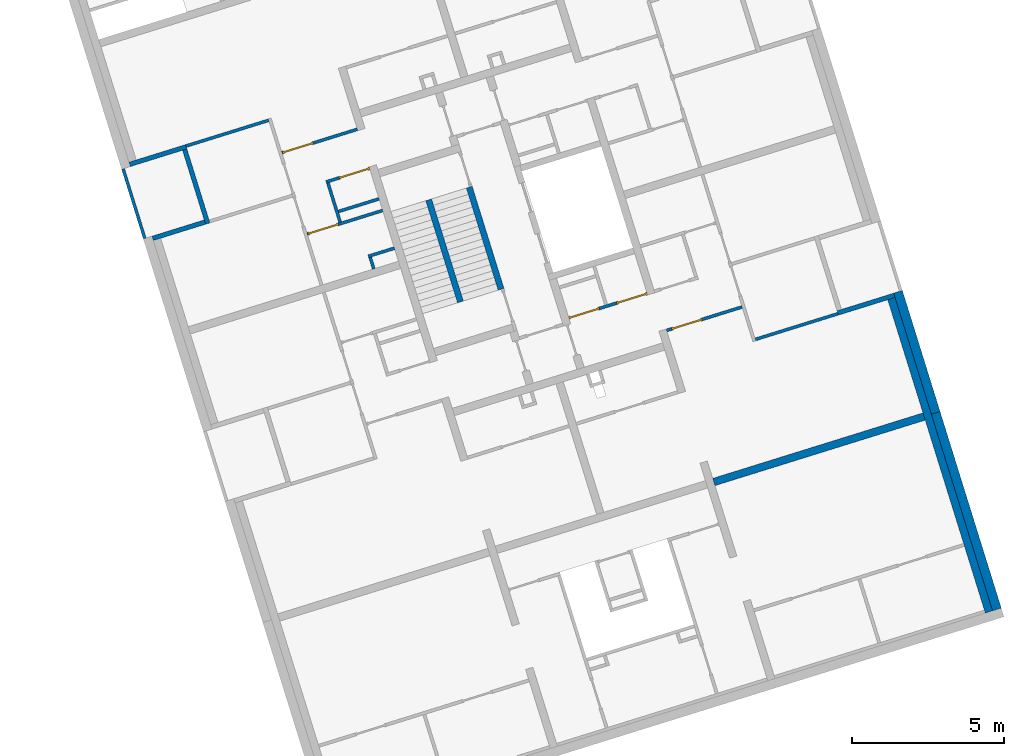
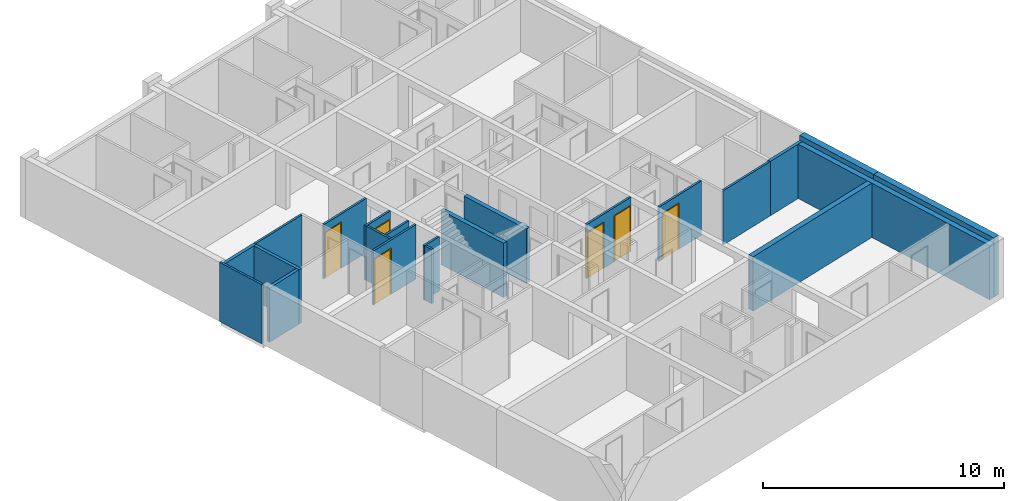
# One storey, part 4 of 12: 22 walls, 6 doors, 6 openings.
"""IFC4 building model written with IfcOpenShell, lengths in metres."""

from ifc_helpers import new_model, entity, si_unit, converted_unit, direction, frame, origin, place, context, subcontext, project, spatial, indexed_curve, outline, extrude, polygons, source, transform, mapped, material, constituent, constituent_set, type_object, type_shapes, element, fill, save


model = new_model("IFC4")

# Units and contexts
model_context = context("Model", 3, precision=1e-05, world=origin(), true_north=direction((6.12323399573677e-17, 1.0)))
body_context = subcontext(model_context, "Body", "Model", "MODEL_VIEW")
ifc_project = project(units=[si_unit("LENGTHUNIT", "METRE"), si_unit("AREAUNIT", "SQUARE_METRE"), converted_unit("PLANEANGLEUNIT", "DEGREE", entity("IfcPlaneAngleMeasure", 0.0174532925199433), si_unit("PLANEANGLEUNIT", "RADIAN"), dimensions=[0, 0, 0, 0, 0, 0, 0]), si_unit("VOLUMEUNIT", "CUBIC_METRE")], contexts=[model_context])

# Site, building, storey
site_placement = place(None, frame((13.1347999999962, 11.9886000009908, 0.0), z_axis=(0.0, 0.0, 1.0), x_axis=(0.954770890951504, 0.297342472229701, 0.0)))
site = spatial("IfcSite", under=ifc_project, at=site_placement, Name="Schiehaven", CompositionType="ELEMENT")
building_placement = place(site_placement, origin())
building = spatial("IfcBuilding", under=site, at=building_placement, Name="VORM huis", CompositionType="ELEMENT")
storey_placement = place(building_placement, frame((0.0, 0.0, 3.9)))
storey = spatial("IfcBuildingStorey", under=building, at=storey_placement, Name="01 eerste verdieping", CompositionType="ELEMENT", Elevation=3.9)

# Walls
ifc_material_1 = material(Name="beton_gewapend_ihw", Category="Miscellaneous")
wall_type_1 = type_object("IfcWallType", Name="Basic Wall:28_WA_skelet_wand 250mm_gen", PredefinedType="STANDARD")
wall_1_placement = place(storey_placement, frame((80.0, 0.375000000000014, 0.0), z_axis=(0.0, 0.0, 1.0), x_axis=(0.0, 1.0, 0.0)))
element("IfcWall", 1, at=wall_1_placement, inside=storey, type_object=wall_type_1, material=ifc_material_1, Name="Constructieve wand", ObjectType="Wand", PredefinedType="NOTDEFINED", context=body_context, shape_type="SweptSolid", body=[
    extrude(outline(indexed_curve([(10.8, 0.125000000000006), (-2.80743329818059e-16, 0.125000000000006), (2.80743329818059e-16, -0.125000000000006), (10.8, -0.125000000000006), (10.8, 0.125000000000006)], self_intersect=False)), origin(), (0.0, 0.0, 1.0), 2.75),
])
ifc_material_2 = material(Name="ntb_ntb_ntb", Category="Miscellaneous")
wall_type_2 = type_object("IfcWallType", Name="Basic Wall: 300mm_gen", PredefinedType="STANDARD")
wall_2_placement = place(storey_placement, frame((80.2750000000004, 0.375000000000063, 0.0), z_axis=(0.0, 0.0, 1.0), x_axis=(0.0, 1.0, 0.0)))
element("IfcWall", 2, at=wall_2_placement, inside=storey, type_object=wall_type_2, material=ifc_material_2, Name="Gevelwand", ObjectType="Wand", PredefinedType="NOTDEFINED", context=body_context, shape_type="SweptSolid", body=[
    extrude(outline(indexed_curve([(6.77500000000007, 0.150000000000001), (-1.66143873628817e-16, 0.150000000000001), (1.66143873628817e-16, -0.150000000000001), (6.77500000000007, -0.15), (6.77500000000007, 0.150000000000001)], self_intersect=False)), origin(), (0.0, 0.0, 1.0), 3.0),
])
wall_3_placement = place(storey_placement, frame((80.2750000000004, 7.15000000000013, 0.0), z_axis=(0.0, 0.0, 1.0), x_axis=(0.0, 1.0, 0.0)))
element("IfcWall", 3, at=wall_3_placement, inside=storey, type_object=wall_type_2, material=ifc_material_2, Name="Gevelwand", ObjectType="Wand", PredefinedType="NOTDEFINED", context=body_context, shape_type="SweptSolid", body=[
    extrude(outline(indexed_curve([(4.17499999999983, 0.150000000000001), (6.22486493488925e-16, 0.150000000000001), (4.60380635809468e-16, -0.150000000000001), (4.17499999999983, -0.150000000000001), (4.17499999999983, 0.150000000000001)], self_intersect=False)), origin(), (0.0, 0.0, 1.0), 3.0),
])
ifc_material_3 = material(Name="beton_gewapend_prefab-element", Category="Miscellaneous")
wall_type_3 = type_object("IfcWallType", Name="Basic Wall:28_WA_skelet_wand 200mm_gen", PredefinedType="STANDARD")
wall_4_placement = place(storey_placement, frame((67.8250000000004, 15.29, 0.0), z_axis=(0.0, 0.0, 1.0), x_axis=(0.0, 1.0, 0.0)))
element("IfcWall", 4, at=wall_4_placement, inside=storey, type_object=wall_type_3, material=ifc_material_3, Name="Constructieve wand", ObjectType="Wand", PredefinedType="NOTDEFINED", context=body_context, shape_type="SweptSolid", body=[
    extrude(outline(indexed_curve([(3.52, 0.100000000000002), (5.14948433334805e-16, 0.100000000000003), (-5.14948433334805e-16, -0.100000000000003), (3.52, -0.100000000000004), (3.52, 0.100000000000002)], self_intersect=False)), origin(), (0.0, 0.0, 1.0), 2.75),
])
wall_5_placement = place(storey_placement, frame((66.4250000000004, 15.29, 0.0), z_axis=(0.0, 0.0, 1.0), x_axis=(0.0, 1.0, 0.0)))
element("IfcWall", 5, at=wall_5_placement, inside=storey, type_object=wall_type_3, material=ifc_material_3, Name="Constructieve wand", ObjectType="Wand", PredefinedType="NOTDEFINED", context=body_context, shape_type="SweptSolid", body=[
    extrude(outline(indexed_curve([(3.52, 0.100000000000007), (6.38001516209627e-16, 0.100000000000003), (-6.38001516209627e-16, -0.100000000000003), (3.52, -0.0999999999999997), (3.52, 0.100000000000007)], self_intersect=False)), origin(), (0.0, 0.0, 1.0), 2.75),
])
wall_type_4 = type_object("IfcWallType", Name="Basic Wall:22_WA_afbouw_binnenwand 250mm_gen", PredefinedType="STANDARD")
wall_6_placement = place(storey_placement, frame((79.8750000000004, 7.15000000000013, 0.0), z_axis=(0.0, 0.0, 1.0), x_axis=(-1.0, 0.0, 0.0)))
element("IfcWall", 6, at=wall_6_placement, inside=storey, type_object=wall_type_4, material=ifc_material_2, Name="Binnenwand", ObjectType="Wand", PredefinedType="NOTDEFINED", context=body_context, shape_type="SweptSolid", body=[
    extrude(outline(indexed_curve([(7.24999999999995, 0.125), (2.64740926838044e-16, 0.125), (-2.64740926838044e-16, -0.125), (7.24999999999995, -0.125), (7.24999999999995, 0.125)], self_intersect=False)), origin(), (0.0, 0.0, 1.0), 2.75),
])
wall_type_5 = type_object("IfcWallType", Name="Basic Wall:22_WA_afbouw_binnenwand 100mm_gen", PredefinedType="STANDARD")
wall_7_placement = place(storey_placement, frame((64.8771642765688, 17.6249999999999, 0.0), z_axis=(0.0, 0.0, 1.0), x_axis=(-1.0, 0.0, 0.0)))
element("IfcWall", 7, at=wall_7_placement, inside=storey, type_object=wall_type_5, material=ifc_material_2, Name="Binnenwand", ObjectType="Wand", PredefinedType="NOTDEFINED", context=body_context, shape_type="SweptSolid", body=[
    extrude(outline(indexed_curve([(0.902164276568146, 0.0499999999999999), (-2.21764679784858e-17, 0.0499999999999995), (2.21764679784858e-17, -0.0499999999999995), (0.902164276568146, -0.0499999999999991), (0.902164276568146, 0.0499999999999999)], self_intersect=False)), origin(), (0.0, 0.0, 1.0), 2.75),
])
wall_8_placement = place(storey_placement, frame((64.0250000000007, 17.5749999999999, 0.0), z_axis=(0.0, 0.0, 1.0), x_axis=(0.0, -1.0, 0.0)))
element("IfcWall", 8, at=wall_8_placement, inside=storey, type_object=wall_type_5, material=ifc_material_2, Name="Binnenwand", ObjectType="Wand", PredefinedType="NOTDEFINED", context=body_context, shape_type="SweptSolid", body=[
    extrude(outline(indexed_curve([(0.399999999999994, 0.0499999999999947), (3.21404622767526e-16, 0.0499999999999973), (-3.21404622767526e-16, -0.0499999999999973), (0.399999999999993, -0.0499999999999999), (0.399999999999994, 0.0499999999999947)], self_intersect=False)), origin(), (0.0, 0.0, 1.0), 2.75),
])
wall_9_placement = place(storey_placement, frame((75.3249999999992, 11.2249999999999, 0.0)))
element("IfcWall", 9, at=wall_9_placement, inside=storey, type_object=wall_type_5, material=ifc_material_2, Name="Binnenwand", ObjectType="Wand", PredefinedType="NOTDEFINED", context=body_context, shape_type="SweptSolid", body=[
    extrude(outline(indexed_curve([(2.8500000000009, 0.049999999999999), (5.02600343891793e-16, 0.0499999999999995), (-5.02600343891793e-16, -0.0499999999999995), (2.8500000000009, -0.05), (2.8500000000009, 0.049999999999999)], self_intersect=False)), origin(), (0.0, 0.0, 1.0), 2.75),
])

# Wall, openings, doors
wall_10_placement = place(storey_placement, frame((69.6749999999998, 13.7249999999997, 0.0)))
wall_10 = element("IfcWall", 10, at=wall_10_placement, inside=storey, type_object=wall_type_5, material=ifc_material_2, Name="Binnenwand", ObjectType="Wand", PredefinedType="NOTDEFINED", context=body_context, shape_type="Tessellation", body=[
    polygons([(2.70000000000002, -0.0500000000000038, 2.75), (1.0939532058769e-14, -0.0499999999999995, 2.75), (1.0939532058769e-14, -0.0499999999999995, 2.34999999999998), (1.05000000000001, -0.050000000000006, 2.34999999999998), (1.05000000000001, -0.0500000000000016, -5.41433564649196e-16), (1.65000000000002, -0.0500000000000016, -5.41433564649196e-16), (1.65000000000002, -0.0500000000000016, 2.34999999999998), (2.70000000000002, -0.0500000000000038, 2.34999999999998), (1.19064106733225e-14, 0.0499999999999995, 2.75), (1.24999999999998, 0.0499999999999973, 2.75), (1.34999999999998, 0.0499999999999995, 2.75), (2.70000000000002, 0.0499999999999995, 2.75), (2.70000000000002, 0.0499999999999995, 2.34999999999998), (1.65000000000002, 0.0499999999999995, 2.34999999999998), (1.65000000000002, 0.0499999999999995, -5.41433564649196e-16), (1.34999999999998, 0.0499999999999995, 0.0), (1.24999999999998, 0.0499999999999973, 0.0), (1.05, 0.0499999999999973, -5.41433564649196e-16), (1.05, 0.0499999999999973, 2.34999999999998), (1.19064106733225e-14, 0.0499999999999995, 2.34999999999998)], [[[1, 2, 3, 4, 5, 6, 7, 8]], [[9, 10, 11, 12, 13, 14, 15, 16, 17, 18, 19, 20]], [[5, 18, 17, 16, 15, 6]], [[12, 1, 8, 13]], [[2, 1, 12, 11, 10, 9]], [[2, 9, 20, 3]], [[4, 19, 18, 5]], [[19, 4, 3, 20]], [[14, 7, 6, 15]], [[7, 14, 13, 8]]], closed=True),
])
opening_1_placement = place(wall_10_placement, frame((1.05, 0.0500000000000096, 0.0)))
opening_1 = element("IfcOpeningElement", 11, at=opening_1_placement, cuts=wall_10, Name="Binnendeur", PredefinedType="OPENING", context=body_context, shape_type="SweptSolid", body=[
    extrude(outline(indexed_curve([(2.34999999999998, 1.43962647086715e-29), (2.34999999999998, 1.05), (0.0, 1.05), (0.0, 1.43962647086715e-29), (2.34999999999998, 1.43962647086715e-29)], self_intersect=False)), frame((0.0, 0.0, 0.0), z_axis=(0.0, -1.0, 0.0), x_axis=(0.0, 0.0, 1.0)), (0.0, 0.0, 1.0), 0.1),
])
opening_2_placement = place(wall_10_placement, frame((2.70000000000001, 0.0500000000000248, 0.0)))
opening_2 = element("IfcOpeningElement", 12, at=opening_2_placement, cuts=wall_10, Name="Binnendeur", PredefinedType="OPENING", context=body_context, shape_type="SweptSolid", body=[
    extrude(outline(indexed_curve([(2.34999999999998, 1.43962647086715e-29), (2.34999999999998, 1.05), (0.0, 1.05), (0.0, 1.43962647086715e-29), (2.34999999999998, 1.43962647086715e-29)], self_intersect=False)), frame((0.0, 0.0, 0.0), z_axis=(0.0, -1.0, 0.0), x_axis=(0.0, 0.0, 1.0)), (0.0, 0.0, 1.0), 0.1),
])
ifc_material_4 = material(Name="PD_a_binnenwandopeningen", Category="Miscellaneous")
ifc_constituent_1 = constituent(ifc_material_4, Name="PD_a_binnenwandopeningen", Category="Miscellaneous")
ifc_material_5 = material(Name="metaal_aluminium_ntb", Category="Miscellaneous")
ifc_constituent_2 = constituent(ifc_material_5, Name="metaal_aluminium_ntb", Category="Miscellaneous")
ifc_constituent_set_1 = constituent_set(constituents=[ifc_constituent_1, ifc_constituent_2])
ifc_constituent_3 = constituent(ifc_material_4, Name="PD_a_binnenwandopeningen", Category="Miscellaneous")
ifc_constituent_4 = constituent(ifc_material_5, Name="Panel", Category="Miscellaneous")
ifc_constituent_set_2 = constituent_set(constituents=[ifc_constituent_3, ifc_constituent_4])
door_type_1 = type_object("IfcDoorType", Name="32_DO_binnendeur enkel:binnendeur", OperationType="REVOLVING", PredefinedType="DOOR", material=ifc_constituent_set_2)
shared_shape_1 = source(origin(), body_context, "Body", "SweptSolid", [
    extrude(outline(indexed_curve([(0.475, -1.16249999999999), (0.525, -1.16249999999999), (0.525, 1.18749999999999), (-0.525, 1.18749999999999), (-0.525, -1.16249999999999), (-0.475, -1.16249999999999), (-0.475, 1.13749999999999), (0.475, 1.13749999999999), (0.475, -1.16249999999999)], self_intersect=False)), frame((0.525000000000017, 0.100000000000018, 1.16249999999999), z_axis=(0.0, -1.0, 0.0), x_axis=(1.0, 0.0, 0.0)), (0.0, 0.0, 1.0), 0.1),
    extrude(outline(indexed_curve([(-0.475, -0.025), (0.475, -0.025), (0.475, 0.025), (-0.475, 0.025), (-0.475, -0.025)], self_intersect=False)), frame((0.525000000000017, 0.0499999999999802, 0.0)), (0.0, 0.0, 1.0), 2.29999999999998),
])
type_shapes(door_type_1, [shared_shape_1])
door_1_placement = place(opening_1_placement, frame((0.0, 0.0, 0.0), z_axis=(0.0, 0.0, 1.0), x_axis=(-1.0, 0.0, 0.0)))
door_1 = element("IfcDoor", 13, at=door_1_placement, inside=storey, type_object=door_type_1, material=ifc_constituent_set_1, Name="Binnendeur", ObjectType="Deur", OperationType="REVOLVING", OverallHeight=2.34999999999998, OverallWidth=1.05, PredefinedType="DOOR", context=body_context, shape_type="MappedRepresentation", body=[
    mapped(shared_shape_1, transform((0.0, 0.0, 0.0), scale=1.0)),
])
fill(opening_1, door_1)
ifc_constituent_5 = constituent(ifc_material_4, Name="PD_a_binnenwandopeningen", Category="Miscellaneous")
ifc_constituent_6 = constituent(ifc_material_5, Name="metaal_aluminium_ntb", Category="Miscellaneous")
ifc_constituent_set_3 = constituent_set(constituents=[ifc_constituent_5, ifc_constituent_6])
door_2_placement = place(opening_2_placement, frame((0.0, 0.0, 0.0), z_axis=(0.0, 0.0, 1.0), x_axis=(-1.0, 0.0, 0.0)))
door_2 = element("IfcDoor", 14, at=door_2_placement, inside=storey, type_object=door_type_1, material=ifc_constituent_set_3, Name="Binnendeur", ObjectType="Deur", OperationType="REVOLVING", OverallHeight=2.34999999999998, OverallWidth=1.05, PredefinedType="DOOR", context=body_context, shape_type="MappedRepresentation", body=[
    mapped(shared_shape_1, transform((0.0, 0.0, 0.0), scale=1.0)),
])
fill(opening_2, door_2)

# Wall, opening, door
wall_11_placement = place(storey_placement, frame((75.2249999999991, 12.3749999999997, 0.0), z_axis=(0.0, 0.0, 1.0), x_axis=(-1.0, 0.0, 0.0)))
wall_11 = element("IfcWall", 15, at=wall_11_placement, inside=storey, type_object=wall_type_5, material=ifc_material_2, Name="Binnenwand", ObjectType="Wand", PredefinedType="NOTDEFINED", context=body_context, shape_type="Tessellation", body=[
    polygons([(2.42608213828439, -0.0500000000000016, 2.34999999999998), (2.42608213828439, -0.0500000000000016, 0.0), (2.59999999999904, -0.0500000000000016, 0.0), (2.59999999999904, -0.0500000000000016, 2.75), (-3.42568201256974e-15, -0.0500000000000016, 2.75), (-3.42568201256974e-15, -0.0500000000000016, 0.0), (1.37608213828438, -0.0499999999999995, 0.0), (1.37608213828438, -0.0499999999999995, 2.34999999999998), (2.59999999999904, 0.0499999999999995, 0.0), (2.42608213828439, 0.0499999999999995, 0.0), (2.42608213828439, 0.0499999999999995, 2.34999999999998), (1.37608213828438, 0.0500000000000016, 2.34999999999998), (1.37608213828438, 0.0500000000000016, 0.0), (-3.7467202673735e-15, 0.0499999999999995, 0.0), (-3.7467202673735e-15, 0.0499999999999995, 2.75), (2.59999999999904, 0.0499999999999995, 2.75)], [[[1, 2, 3, 4, 5, 6, 7, 8]], [[9, 10, 11, 12, 13, 14, 15, 16]], [[7, 6, 14, 13]], [[4, 3, 9, 16]], [[5, 4, 16, 15]], [[6, 5, 15, 14]], [[13, 12, 8, 7]], [[11, 10, 2, 1]], [[12, 11, 1, 8]], [[3, 2, 10, 9]]], closed=True),
])
opening_3_placement = place(wall_11_placement, frame((2.42608213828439, 0.0499999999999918, 0.0)))
opening_3 = element("IfcOpeningElement", 16, at=opening_3_placement, cuts=wall_11, Name="Binnendeur", PredefinedType="OPENING", context=body_context, shape_type="SweptSolid", body=[
    extrude(outline(indexed_curve([(2.34999999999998, 1.05), (0.0, 1.05), (0.0, -3.09618454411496e-30), (2.34999999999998, -3.09618454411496e-30), (2.34999999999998, 1.05)], self_intersect=False)), frame((0.0, 0.0, 0.0), z_axis=(0.0, -1.0, 0.0), x_axis=(0.0, 0.0, 1.0)), (0.0, 0.0, 1.0), 0.1),
])
ifc_constituent_7 = constituent(ifc_material_4, Name="PD_a_binnenwandopeningen", Category="Miscellaneous")
ifc_constituent_8 = constituent(ifc_material_5, Name="metaal_aluminium_ntb", Category="Miscellaneous")
ifc_constituent_set_4 = constituent_set(constituents=[ifc_constituent_7, ifc_constituent_8])
ifc_constituent_9 = constituent(ifc_material_4, Name="PD_a_binnenwandopeningen", Category="Miscellaneous")
ifc_constituent_10 = constituent(ifc_material_5, Name="Panel", Category="Miscellaneous")
ifc_constituent_set_5 = constituent_set(constituents=[ifc_constituent_9, ifc_constituent_10])
door_type_2 = type_object("IfcDoorType", Name="32_DO_binnendeur enkel:binnendeur", OperationType="REVOLVING", PredefinedType="DOOR", material=ifc_constituent_set_5)
shared_shape_2 = source(origin(), body_context, "Body", "SweptSolid", [
    extrude(outline(indexed_curve([(-1.16249999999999, -0.525000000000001), (1.18749999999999, -0.525), (1.18749999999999, 0.525), (-1.16249999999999, 0.525), (-1.16249999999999, 0.475), (1.13749999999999, 0.475), (1.13749999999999, -0.475), (-1.16249999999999, -0.475), (-1.16249999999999, -0.525000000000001)], self_intersect=False)), frame((0.525000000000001, 0.0, 1.16249999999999), z_axis=(0.0, 1.0, 0.0), x_axis=(0.0, 0.0, 1.0)), (0.0, 0.0, 1.0), 0.1),
    extrude(outline(indexed_curve([(-0.025, -0.475), (0.025, -0.475), (0.025, 0.475), (-0.025, 0.475), (-0.025, -0.475)], self_intersect=False)), frame((0.525000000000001, 0.0499999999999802, 0.0), z_axis=(0.0, 0.0, 1.0), x_axis=(0.0, 1.0, 0.0)), (0.0, 0.0, 1.0), 2.29999999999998),
])
type_shapes(door_type_2, [shared_shape_2])
door_3_placement = place(opening_3_placement, frame((0.0, 0.0, 0.0), z_axis=(0.0, 0.0, 1.0), x_axis=(-1.0, 0.0, 0.0)))
door_3 = element("IfcDoor", 17, at=door_3_placement, inside=storey, type_object=door_type_2, material=ifc_constituent_set_4, Name="Binnendeur", ObjectType="Deur", OperationType="REVOLVING", OverallHeight=2.34999999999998, OverallWidth=1.05, PredefinedType="DOOR", context=body_context, shape_type="MappedRepresentation", body=[
    mapped(shared_shape_2, transform((0.0, 0.0, 0.0), scale=1.0)),
])
fill(opening_3, door_3)

# Wall
wall_12_placement = place(storey_placement, frame((62.1750000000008, 22.8749999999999, 0.0), z_axis=(0.0, 0.0, 1.0), x_axis=(-1.0, 0.0, 0.0)))
element("IfcWall", 18, at=wall_12_placement, inside=storey, type_object=wall_type_5, material=ifc_material_2, Name="Binnenwand", ObjectType="Wand", PredefinedType="NOTDEFINED", context=body_context, shape_type="SweptSolid", body=[
    extrude(outline(indexed_curve([(2.85000000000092, 0.0499999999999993), (6.49391996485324e-16, 0.0500000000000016), (-6.49391996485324e-16, -0.0500000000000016), (2.85000000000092, -0.050000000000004), (2.85000000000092, 0.0499999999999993)], self_intersect=False)), origin(), (0.0, 0.0, 1.0), 2.75),
])

# Wall, opening, door
wall_13_placement = place(storey_placement, frame((62.2750000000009, 18.9249999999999, 0.0)))
wall_13 = element("IfcWall", 19, at=wall_13_placement, inside=storey, type_object=wall_type_5, material=ifc_material_2, Name="Binnenwand", ObjectType="Wand", PredefinedType="NOTDEFINED", context=body_context, shape_type="Tessellation", body=[
    polygons([(1.07500000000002, -0.0500000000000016, 2.34999999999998), (1.07500000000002, -0.0500000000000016, -5.41433564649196e-16), (2.59999999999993, -0.0500000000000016, -5.41433564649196e-16), (2.59999999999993, -0.0500000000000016, 2.75), (3.37727119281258e-15, -0.0500000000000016, 2.75), (3.37727119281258e-15, -0.0500000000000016, -5.41433564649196e-16), (0.025000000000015, -0.0500000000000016, -5.41433564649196e-16), (0.025000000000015, -0.0500000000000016, 2.34999999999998), (2.59999999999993, 0.0499999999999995, -5.41433564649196e-16), (1.20000000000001, 0.0499999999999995, 0.0), (1.10000000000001, 0.0499999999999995, 0.0), (1.07500000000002, 0.0499999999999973, -5.41433564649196e-16), (1.07500000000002, 0.0499999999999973, 2.34999999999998), (0.0250000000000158, 0.0500000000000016, 2.34999999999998), (0.0250000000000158, 0.0500000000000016, -5.41433564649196e-16), (4.12950570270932e-15, 0.0500000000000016, -5.41433564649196e-16), (4.12950570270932e-15, 0.0500000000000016, 2.75), (1.10000000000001, 0.0499999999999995, 2.75), (1.20000000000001, 0.0499999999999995, 2.75), (2.59999999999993, 0.0499999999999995, 2.75)], [[[1, 2, 3, 4, 5, 6, 7, 8]], [[9, 10, 11, 12, 13, 14, 15, 16, 17, 18, 19, 20]], [[7, 6, 16, 15]], [[4, 3, 9, 20]], [[5, 4, 20, 19, 18, 17]], [[15, 14, 8, 7]], [[13, 12, 2, 1]], [[14, 13, 1, 8]], [[6, 5, 17, 16]], [[3, 2, 12, 11, 10, 9]]], closed=True),
])
opening_4_placement = place(wall_13_placement, frame((0.0250000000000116, -0.0499999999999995, 0.0)))
opening_4 = element("IfcOpeningElement", 20, at=opening_4_placement, cuts=wall_13, Name="Binnendeur", PredefinedType="OPENING", context=body_context, shape_type="SweptSolid", body=[
    extrude(outline(indexed_curve([(2.34999999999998, 0.0), (2.34999999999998, 1.05), (0.0, 1.05), (0.0, 0.0), (2.34999999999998, 0.0)], self_intersect=False)), frame((0.0, 0.0, 0.0), z_axis=(0.0, 1.0, 0.0), x_axis=(0.0, 0.0, 1.0)), (0.0, 0.0, 1.0), 0.1),
])
ifc_constituent_11 = constituent(ifc_material_4, Name="PD_a_binnenwandopeningen", Category="Miscellaneous")
ifc_constituent_12 = constituent(ifc_material_5, Name="metaal_aluminium_ntb", Category="Miscellaneous")
ifc_constituent_set_6 = constituent_set(constituents=[ifc_constituent_11, ifc_constituent_12])
door_4_placement = place(opening_4_placement, origin())
door_4 = element("IfcDoor", 21, at=door_4_placement, inside=storey, type_object=door_type_1, material=ifc_constituent_set_6, Name="Binnendeur", ObjectType="Deur", OperationType="REVOLVING", OverallHeight=2.34999999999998, OverallWidth=1.05, PredefinedType="DOOR", context=body_context, shape_type="MappedRepresentation", body=[
    mapped(shared_shape_1, transform((0.0, 0.0, 0.0), scale=1.0)),
])
fill(opening_4, door_4)

# Wall
wall_14_placement = place(storey_placement, frame((63.4250000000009, 18.9749999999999, 0.0), z_axis=(0.0, 0.0, 1.0), x_axis=(0.0, 1.0, 0.0)))
element("IfcWall", 22, at=wall_14_placement, inside=storey, type_object=wall_type_5, material=ifc_material_2, Name="Binnenwand", ObjectType="Wand", PredefinedType="NOTDEFINED", context=body_context, shape_type="SweptSolid", body=[
    extrude(outline(indexed_curve([(1.3500000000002, 0.0500000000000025), (4.49540235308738e-16, 0.0499999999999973), (-4.49540235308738e-16, -0.0499999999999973), (1.3500000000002, -0.0499999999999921), (1.3500000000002, 0.0500000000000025)], self_intersect=False)), origin(), (0.0, 0.0, 1.0), 2.75),
])

# Wall, opening, door
wall_15_placement = place(storey_placement, frame((64.8771642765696, 20.3750000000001, 0.0), z_axis=(0.0, 0.0, 1.0), x_axis=(-1.0, 0.0, 0.0)))
wall_15 = element("IfcWall", 23, at=wall_15_placement, inside=storey, type_object=wall_type_5, material=ifc_material_2, Name="Binnenwand", ObjectType="Wand", PredefinedType="NOTDEFINED", context=body_context, shape_type="Tessellation", body=[
    polygons([(1.5021642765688, -0.0499999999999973, 2.75), (-6.66128494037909e-16, -0.0499999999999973, 2.75), (-6.66128494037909e-16, -0.0499999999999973, 2.34999999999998), (1.05, -0.0499999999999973, 2.34999999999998), (1.05, -0.0499999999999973, -5.41433564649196e-16), (1.5021642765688, -0.0499999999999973, -5.41433564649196e-16), (6.09534857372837e-16, 0.0500000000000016, 2.75), (1.4021642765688, 0.0500000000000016, 2.75), (1.5021642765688, 0.0500000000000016, 2.75), (1.5021642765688, 0.0500000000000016, -5.41433564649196e-16), (1.4021642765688, 0.0500000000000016, 0.0), (1.05, 0.0500000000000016, -5.41433564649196e-16), (1.05, 0.0500000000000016, 2.34999999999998), (6.09534857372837e-16, 0.0500000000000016, 2.34999999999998)], [[[1, 2, 3, 4, 5, 6]], [[7, 8, 9, 10, 11, 12, 13, 14]], [[10, 6, 5, 12, 11]], [[2, 1, 9, 8, 7]], [[2, 7, 14, 3]], [[1, 6, 10, 9]], [[4, 13, 12, 5]], [[13, 4, 3, 14]]], closed=True),
])
opening_5_placement = place(wall_15_placement, frame((1.05, 0.0500000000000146, 0.0)))
opening_5 = element("IfcOpeningElement", 24, at=opening_5_placement, cuts=wall_15, Name="Binnendeur", PredefinedType="OPENING", context=body_context, shape_type="SweptSolid", body=[
    extrude(outline(indexed_curve([(2.34999999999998, 0.0), (2.34999999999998, 1.05), (0.0, 1.05), (0.0, 0.0), (2.34999999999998, 0.0)], self_intersect=False)), frame((0.0, 0.0, 0.0), z_axis=(0.0, -1.0, 0.0), x_axis=(0.0, 0.0, 1.0)), (0.0, 0.0, 1.0), 0.1),
])
ifc_constituent_13 = constituent(ifc_material_4, Name="PD_a_binnenwandopeningen", Category="Miscellaneous")
ifc_constituent_14 = constituent(ifc_material_5, Name="metaal_aluminium_ntb", Category="Miscellaneous")
ifc_constituent_set_7 = constituent_set(constituents=[ifc_constituent_13, ifc_constituent_14])
door_5_placement = place(opening_5_placement, frame((0.0, 0.0, 0.0), z_axis=(0.0, 0.0, 1.0), x_axis=(-1.0, 0.0, 0.0)))
door_5 = element("IfcDoor", 25, at=door_5_placement, inside=storey, type_object=door_type_1, material=ifc_constituent_set_7, Name="Binnendeur", ObjectType="Deur", OperationType="REVOLVING", OverallHeight=2.34999999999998, OverallWidth=1.05, PredefinedType="DOOR", context=body_context, shape_type="MappedRepresentation", body=[
    mapped(shared_shape_1, transform((0.0, 0.0, 0.0), scale=1.0)),
])
fill(opening_5, door_5)

wall_16_placement = place(storey_placement, frame((62.2750000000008, 21.7250000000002, 0.0)))
wall_16 = element("IfcWall", 26, at=wall_16_placement, inside=storey, type_object=wall_type_5, material=ifc_material_2, Name="Binnenwand", ObjectType="Wand", PredefinedType="NOTDEFINED", context=body_context, shape_type="Tessellation", body=[
    polygons([(1.07500000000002, -0.0499999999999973, 2.34999999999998), (1.07500000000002, -0.0499999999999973, 0.0), (2.59999999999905, -0.0499999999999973, 0.0), (2.59999999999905, -0.0499999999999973, 2.75), (2.71207670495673e-15, -0.0499999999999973, 2.75), (2.71207670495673e-15, -0.0499999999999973, 0.0), (0.0250000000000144, -0.0499999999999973, 0.0), (0.0250000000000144, -0.0499999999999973, 2.34999999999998), (2.59999999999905, 0.0500000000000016, 0.0), (1.07500000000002, 0.0500000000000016, 0.0), (1.07500000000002, 0.0500000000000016, 2.34999999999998), (0.0250000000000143, 0.0500000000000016, 2.34999999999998), (0.0250000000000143, 0.0500000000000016, 0.0), (2.68462175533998e-15, 0.0500000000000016, 0.0), (2.68462175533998e-15, 0.0500000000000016, 2.75), (2.59999999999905, 0.0500000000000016, 2.75)], [[[1, 2, 3, 4, 5, 6, 7, 8]], [[9, 10, 11, 12, 13, 14, 15, 16]], [[7, 6, 14, 13]], [[4, 3, 9, 16]], [[5, 4, 16, 15]], [[6, 5, 15, 14]], [[13, 12, 8, 7]], [[11, 10, 2, 1]], [[12, 11, 1, 8]], [[3, 2, 10, 9]]], closed=True),
])
opening_6_placement = place(wall_16_placement, frame((1.07500000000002, 0.0500000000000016, 0.0)))
opening_6 = element("IfcOpeningElement", 27, at=opening_6_placement, cuts=wall_16, Name="Binnendeur", PredefinedType="OPENING", context=body_context, shape_type="SweptSolid", body=[
    extrude(outline(indexed_curve([(2.34999999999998, 1.05), (0.0, 1.05), (0.0, 0.0), (2.34999999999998, 0.0), (2.34999999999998, 1.05)], self_intersect=False)), frame((0.0, 0.0, 0.0), z_axis=(0.0, -1.0, 0.0), x_axis=(0.0, 0.0, 1.0)), (0.0, 0.0, 1.0), 0.1),
])
ifc_constituent_15 = constituent(ifc_material_4, Name="PD_a_binnenwandopeningen", Category="Miscellaneous")
ifc_constituent_16 = constituent(ifc_material_5, Name="metaal_aluminium_ntb", Category="Miscellaneous")
ifc_constituent_set_8 = constituent_set(constituents=[ifc_constituent_15, ifc_constituent_16])
door_6_placement = place(opening_6_placement, frame((0.0, 0.0, 0.0), z_axis=(0.0, 0.0, 1.0), x_axis=(-1.0, 0.0, 0.0)))
door_6 = element("IfcDoor", 28, at=door_6_placement, inside=storey, type_object=door_type_2, material=ifc_constituent_set_8, Name="Binnendeur", ObjectType="Deur", OperationType="REVOLVING", OverallHeight=2.34999999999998, OverallWidth=1.05, PredefinedType="DOOR", context=body_context, shape_type="MappedRepresentation", body=[
    mapped(shared_shape_2, transform((0.0, 0.0, 0.0), scale=1.0)),
])
fill(opening_6, door_6)

# Walls
wall_17_placement = place(storey_placement, frame((63.4750000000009, 19.3250000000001, 0.0)))
element("IfcWall", 29, at=wall_17_placement, inside=storey, type_object=wall_type_5, material=ifc_material_2, Name="Binnenwand", ObjectType="Wand", PredefinedType="NOTDEFINED", context=body_context, shape_type="SweptSolid", body=[
    extrude(outline(indexed_curve([(1.39999999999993, 0.0499999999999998), (3.7611725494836e-16, 0.0499999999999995), (-3.7611725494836e-16, -0.0499999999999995), (1.39999999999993, -0.0499999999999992), (1.39999999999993, 0.0499999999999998)], self_intersect=False)), origin(), (0.0, 0.0, 1.0), 2.75),
])
wall_type_6 = type_object("IfcWallType", Name="Basic Wall: 150mm_gen", PredefinedType="STANDARD")
wall_18_placement = place(storey_placement, frame((80.1250000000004, 11.25, 0.0), z_axis=(0.0, 0.0, 1.0), x_axis=(-1.0, 0.0, 0.0)))
element("IfcWall", 30, at=wall_18_placement, inside=storey, type_object=wall_type_6, material=ifc_material_2, Name="Gevelwand", ObjectType="Wand", PredefinedType="NOTDEFINED", context=body_context, shape_type="SweptSolid", body=[
    extrude(outline(indexed_curve([(1.94999999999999, 0.0749999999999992), (2.92672273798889e-16, 0.0750000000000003), (-2.92672273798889e-16, -0.0750000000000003), (1.94999999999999, -0.0750000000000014), (1.94999999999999, 0.0749999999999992)], self_intersect=False)), origin(), (0.0, 0.0, 1.0), 2.75),
])
wall_19_placement = place(storey_placement, frame((57.3750000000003, 22.8499999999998, 0.0)))
element("IfcWall", 31, at=wall_19_placement, inside=storey, type_object=wall_type_6, material=ifc_material_2, Name="Gevelwand", ObjectType="Wand", PredefinedType="NOTDEFINED", context=body_context, shape_type="SweptSolid", body=[
    extrude(outline(indexed_curve([(1.95000000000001, 0.0750000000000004), (1.60723273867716e-16, 0.0750000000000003), (-1.60723273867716e-16, -0.0750000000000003), (1.95000000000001, -0.0750000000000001), (1.95000000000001, 0.0750000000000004)], self_intersect=False)), origin(), (0.0, 0.0, 1.0), 2.75),
])
wall_20_placement = place(storey_placement, frame((59.2500000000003, 22.7749999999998, 0.0), z_axis=(0.0, 0.0, 1.0), x_axis=(0.0, -1.0, 0.0)))
element("IfcWall", 32, at=wall_20_placement, inside=storey, type_object=wall_type_6, material=ifc_material_2, Name="Gevelwand", ObjectType="Wand", PredefinedType="NOTDEFINED", context=body_context, shape_type="SweptSolid", body=[
    extrude(outline(indexed_curve([(2.55000000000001, 0.0750000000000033), (-8.83375717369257e-17, 0.0750000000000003), (8.83375717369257e-17, -0.0750000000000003), (2.55000000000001, -0.0749999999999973), (2.55000000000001, 0.0750000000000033)], self_intersect=False)), origin(), (0.0, 0.0, 1.0), 2.75),
])
wall_21_placement = place(storey_placement, frame((59.1750000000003, 20.2999999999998, 0.0), z_axis=(0.0, 0.0, 1.0), x_axis=(-1.0, 0.0, 0.0)))
element("IfcWall", 33, at=wall_21_placement, inside=storey, type_object=wall_type_6, material=ifc_material_2, Name="Gevelwand", ObjectType="Wand", PredefinedType="NOTDEFINED", context=body_context, shape_type="SweptSolid", body=[
    extrude(outline(indexed_curve([(1.80000000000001, 0.0749999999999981), (-8.83375717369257e-17, 0.0750000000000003), (8.83375717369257e-17, -0.0750000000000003), (1.80000000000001, -0.0750000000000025), (1.80000000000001, 0.0749999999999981)], self_intersect=False)), origin(), (0.0, 0.0, 1.0), 2.75),
])
wall_type_7 = type_object("IfcWallType", Name="Basic Wall: 100mm_gen", PredefinedType="STANDARD")
wall_22_placement = place(storey_placement, frame((57.1250000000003, 22.7749999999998, 0.0), z_axis=(0.0, 0.0, 1.0), x_axis=(0.0, -1.0, 0.0)))
element("IfcWall", 34, at=wall_22_placement, inside=storey, type_object=wall_type_7, material=ifc_material_2, Name="Gevelwand", ObjectType="Wand", PredefinedType="NOTDEFINED", context=body_context, shape_type="SweptSolid", body=[
    extrude(outline(indexed_curve([(2.4, 0.0499999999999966), (1.50781207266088e-17, 0.0499999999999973), (-1.50781207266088e-17, -0.0499999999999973), (2.4, -0.049999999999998), (2.4, 0.0499999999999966)], self_intersect=False)), origin(), (0.0, 0.0, 1.0), 3.0),
])

save(model, "model.ifc")
